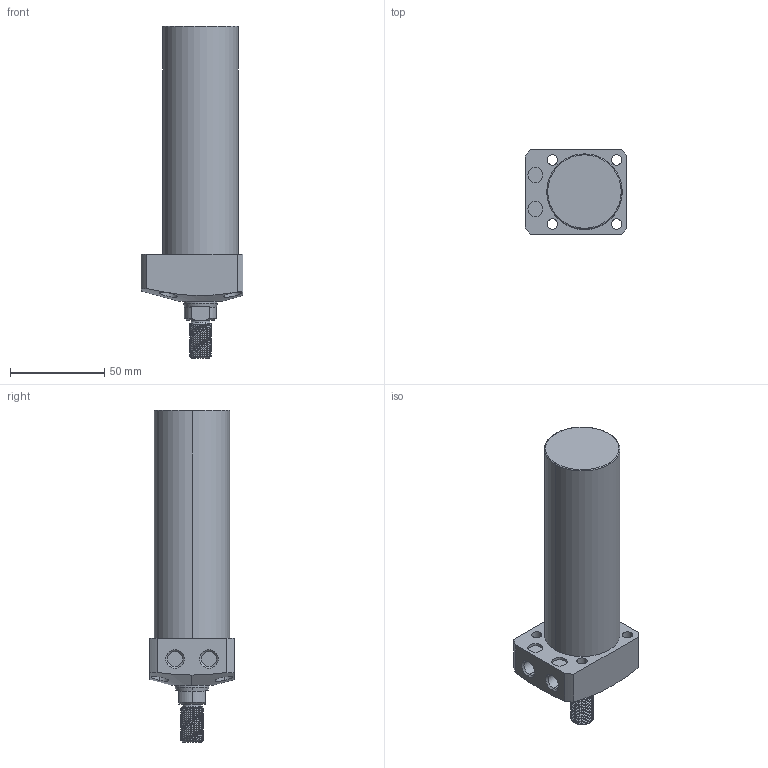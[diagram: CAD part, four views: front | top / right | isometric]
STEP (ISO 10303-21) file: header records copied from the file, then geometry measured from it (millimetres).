
FILE_DESCRIPTION (( 'STEP AP203' ), '1' );
FILE_NAME ('CLL-040CT-095.STEP', '2020-01-08T09:10:35', ( '' ), ( '' ), 'SwSTEP 2.0', 'SolidWorks 2015', '' );
FILE_SCHEMA (( 'CONFIG_CONTROL_DESIGN' ));
Length unit declared in the file: millimetre
Products named in the file (1): CLL-040CT-095
Bounding box: 54 x 45 x 176 mm (x, y, z)
Volume: 205716.6 mm3; surface area: 28084 mm2
Topology: 1 solids, 1 shells, 114 faces, 290 edges, 189 vertices
Faces by surface type: cylinder 71, plane 23, cone 16, torus 2, bspline 2
Entity records: 5843 total; most frequent: CARTESIAN_POINT 3194, ORIENTED_EDGE 580, DIRECTION 498, EDGE_CURVE 290, AXIS2_PLACEMENT_3D 198, VERTEX_POINT 189, EDGE_LOOP 133, FACE_OUTER_BOUND 114
